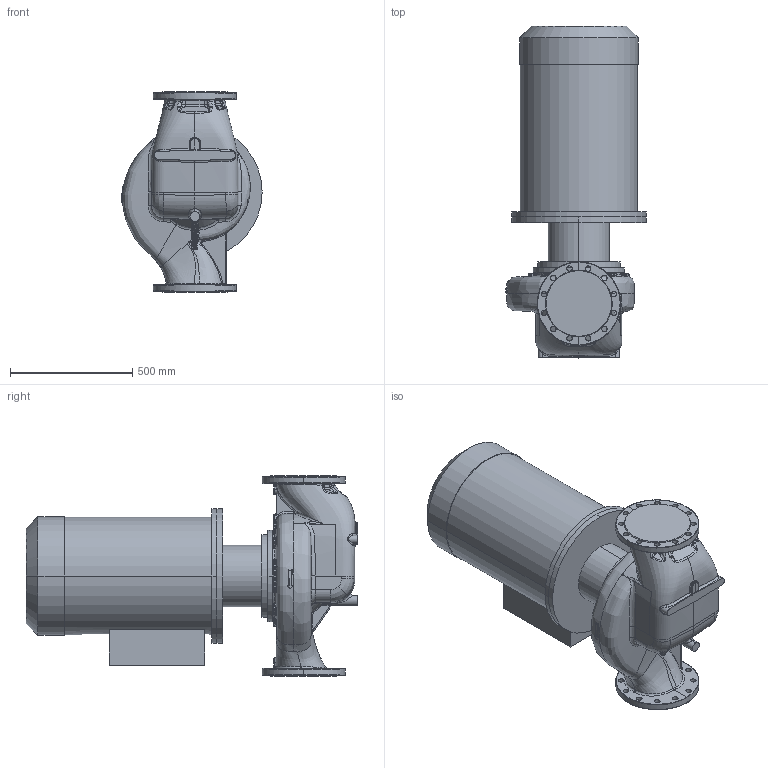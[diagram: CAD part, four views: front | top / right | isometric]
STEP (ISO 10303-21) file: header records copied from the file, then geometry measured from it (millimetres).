
FILE_DESCRIPTION (( 'STEP AP214' ), '1' );
FILE_NAME ('KRL 200-315-4-55.STEP', '2026-04-02T13:03:22', ( '' ), ( '' ), 'SwSTEP 2.0', 'SolidWorks 2016', '' );
FILE_SCHEMA (( 'AUTOMOTIVE_DESIGN' ));
Length unit declared in the file: millimetre
Products named in the file (1): KRL 200-315-4-55
Bounding box: 573.47 x 1356.8 x 820 mm (x, y, z)
Volume: 238760886.4 mm3; surface area: 4239763.9 mm2
Topology: 4 solids, 4 shells, 860 faces, 2107 edges, 1241 vertices
Faces by surface type: bspline 468, cylinder 203, plane 123, cone 36, torus 22, sphere 8
Entity records: 76670 total; most frequent: CARTESIAN_POINT 51247, ORIENTED_EDGE 4138, DIRECTION 2211, EDGE_CURVE 2069, VERTEX_POINT 1240, AXIS2_PLACEMENT_3D 937, B_SPLINE_CURVE_WITH_KNOTS 933, EDGE_LOOP 931
